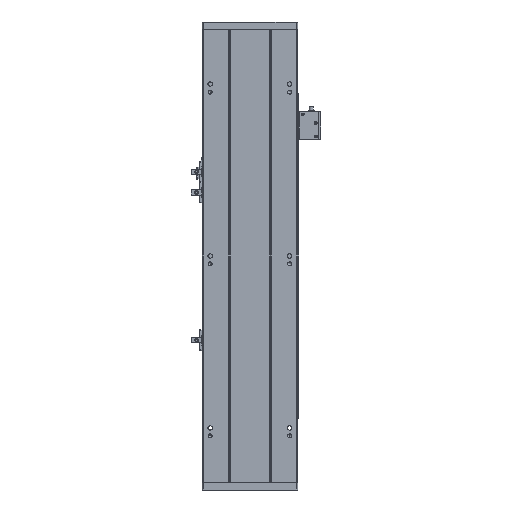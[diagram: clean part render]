
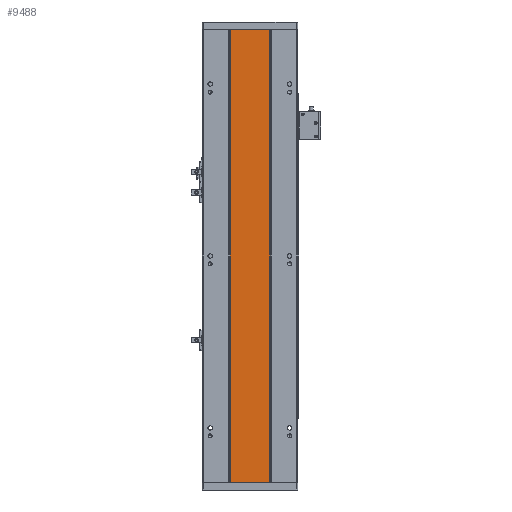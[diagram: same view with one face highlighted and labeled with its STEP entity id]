
A CAD part, front view. The second image highlights one B-rep face of the part: STEP entity #9488.
In plain terms, the highlighted planar face has unit normal (0, -1, 0).
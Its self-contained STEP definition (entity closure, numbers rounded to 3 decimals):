
#2317 = VECTOR ( 'NONE', #19301, 1000. ) ;
#3208 = PLANE ( 'NONE',  #22773 ) ;
#3473 = EDGE_CURVE ( 'NONE', #5112, #10013, #9847, .T. ) ;
#3528 = CARTESIAN_POINT ( 'NONE',  ( 0., 115.96, 568. ) ) ;
#5112 = VERTEX_POINT ( 'NONE', #17218 ) ;
#5466 = VECTOR ( 'NONE', #8906, 1000. ) ;
#5780 = ORIENTED_EDGE ( 'NONE', *, *, #14290, .T. ) ;
#6288 = VECTOR ( 'NONE', #11378, 1000. ) ;
#6710 = CARTESIAN_POINT ( 'NONE',  ( 183.063, 115.96, 568. ) ) ;
#7765 = ORIENTED_EDGE ( 'NONE', *, *, #15772, .F. ) ;
#8073 = CARTESIAN_POINT ( 'NONE',  ( 0., 115.96, 568. ) ) ;
#8906 = DIRECTION ( 'NONE',  ( 1., 0., 0. ) ) ;
#9488 = ADVANCED_FACE ( 'NONE', ( #9749 ), #3208, .F. ) ;
#9749 = FACE_OUTER_BOUND ( 'NONE', #15458, .T. ) ;
#9847 = LINE ( 'NONE', #18014, #5466 ) ;
#10013 = VERTEX_POINT ( 'NONE', #14457 ) ;
#10680 = DIRECTION ( 'NONE',  ( 0., 1., 0. ) ) ;
#10840 = DIRECTION ( 'NONE',  ( -1., 0., 0. ) ) ;
#11378 = DIRECTION ( 'NONE',  ( 0., 0., -1. ) ) ;
#12925 = LINE ( 'NONE', #21480, #22743 ) ;
#14290 = EDGE_CURVE ( 'NONE', #19992, #5112, #16154, .T. ) ;
#14457 = CARTESIAN_POINT ( 'NONE',  ( 183.063, 115.96, 0. ) ) ;
#15227 = VERTEX_POINT ( 'NONE', #6710 ) ;
#15458 = EDGE_LOOP ( 'NONE', ( #18572, #7765, #23745, #5780 ) ) ;
#15772 = EDGE_CURVE ( 'NONE', #15227, #10013, #12925, .T. ) ;
#15930 = DIRECTION ( 'NONE',  ( 0., 0., -1. ) ) ;
#16154 = LINE ( 'NONE', #16878, #6288 ) ;
#16878 = CARTESIAN_POINT ( 'NONE',  ( 133.07, 115.96, 568. ) ) ;
#17218 = CARTESIAN_POINT ( 'NONE',  ( 133.07, 115.96, 0. ) ) ;
#17685 = CARTESIAN_POINT ( 'NONE',  ( 133.07, 115.96, 568. ) ) ;
#18014 = CARTESIAN_POINT ( 'NONE',  ( 0., 115.96, 0. ) ) ;
#18211 = EDGE_CURVE ( 'NONE', #19992, #15227, #19684, .T. ) ;
#18572 = ORIENTED_EDGE ( 'NONE', *, *, #3473, .T. ) ;
#19301 = DIRECTION ( 'NONE',  ( 1., 0., 0. ) ) ;
#19684 = LINE ( 'NONE', #8073, #2317 ) ;
#19992 = VERTEX_POINT ( 'NONE', #17685 ) ;
#21480 = CARTESIAN_POINT ( 'NONE',  ( 183.063, 115.96, 568. ) ) ;
#22743 = VECTOR ( 'NONE', #15930, 1000. ) ;
#22773 = AXIS2_PLACEMENT_3D ( 'NONE', #3528, #10680, #10840 ) ;
#23745 = ORIENTED_EDGE ( 'NONE', *, *, #18211, .F. ) ;
